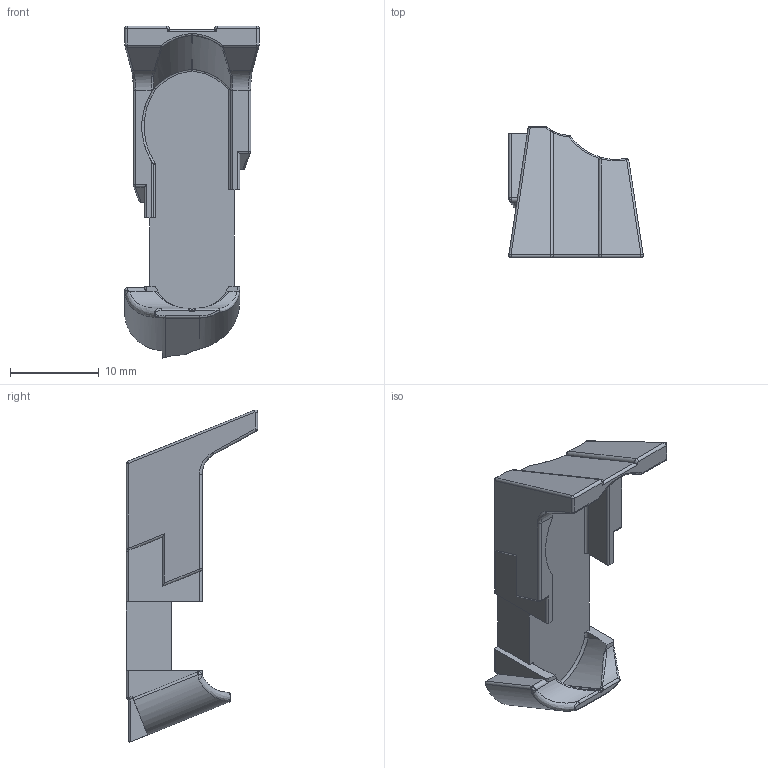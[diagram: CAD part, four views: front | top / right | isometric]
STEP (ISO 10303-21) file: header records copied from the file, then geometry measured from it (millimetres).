
FILE_DESCRIPTION(/* description */ (''),/* implementation_level */ '2;1');
FILE_NAME(/* name */ 'E:\MenMag v2.0\Menendez Magazine Pack v2.0\STEP\Menendez Mag Follower.stp',/* time_stamp */ '2021-03-20T20:55:12-05:00',/* author */ ('johne'),/* organization */ (''),/* preprocessor_version */ 'ST-DEVELOPER v18',/* originating_system */ 'Autodesk Inventor 2020',/* authorisation */ '');
FILE_SCHEMA (('AUTOMOTIVE_DESIGN { 1 0 10303 214 3 1 1 }'));
Length unit declared in the file: inch
Products named in the file (1): Menendez Mag Follower V1.12
Bounding box: 15.16 x 14.8 x 37.46 mm (x, y, z)
Volume: 1681.7 mm3; surface area: 1754.6 mm2
Topology: 1 solids, 1 shells, 175 faces, 436 edges, 259 vertices
Faces by surface type: cylinder 66, plane 44, bspline 42, sphere 20, torus 3
Entity records: 6477 total; most frequent: CARTESIAN_POINT 2405, ORIENTED_EDGE 864, DIRECTION 837, EDGE_CURVE 432, AXIS2_PLACEMENT_3D 335, VERTEX_POINT 259, FACE_OUTER_BOUND 175, EDGE_LOOP 175
